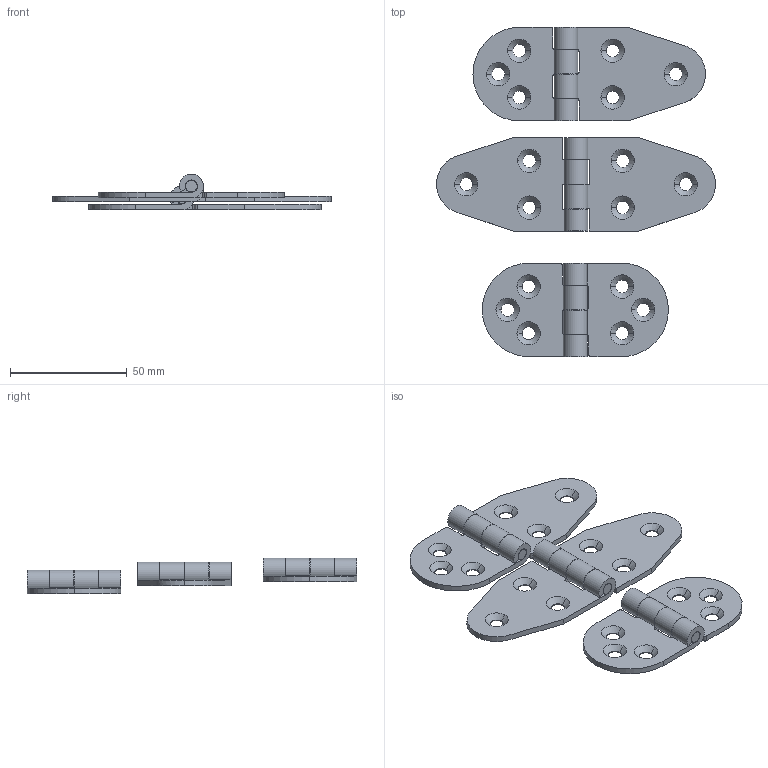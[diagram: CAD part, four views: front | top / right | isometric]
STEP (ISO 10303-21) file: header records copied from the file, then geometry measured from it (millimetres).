
FILE_DESCRIPTION(/* description */ (''),/* implementation_level */ '2;1');
FILE_NAME(/* name */ 'JL238 1-3',/* time_stamp */ '2024-09-18T11:57:36+08:00',/* author */ (''),/* organization */ (''),/* preprocessor_version */ 'ST-DEVELOPER v19.2',/* originating_system */ 'Rhino 8.5',/* authorisation */ '');
FILE_SCHEMA (('CONFIG_CONTROL_DESIGN'));
Length unit declared in the file: millimetre
Products named in the file (1): Document
Bounding box: 119.4 x 140.91 x 15.27 mm (x, y, z)
Volume: 30162.5 mm3; surface area: 30832.9 mm2
Topology: 9 solids, 31 shells, 230 faces, 651 edges, 470 vertices
Faces by surface type: cylinder 99, plane 79, bspline 52
Entity records: 8571 total; most frequent: CARTESIAN_POINT 3344, ORIENTED_EDGE 1152, DIRECTION 719, EDGE_CURVE 624, AXIS2_PLACEMENT_3D 444, VERTEX_POINT 428, CIRCLE 271, EDGE_LOOP 266
